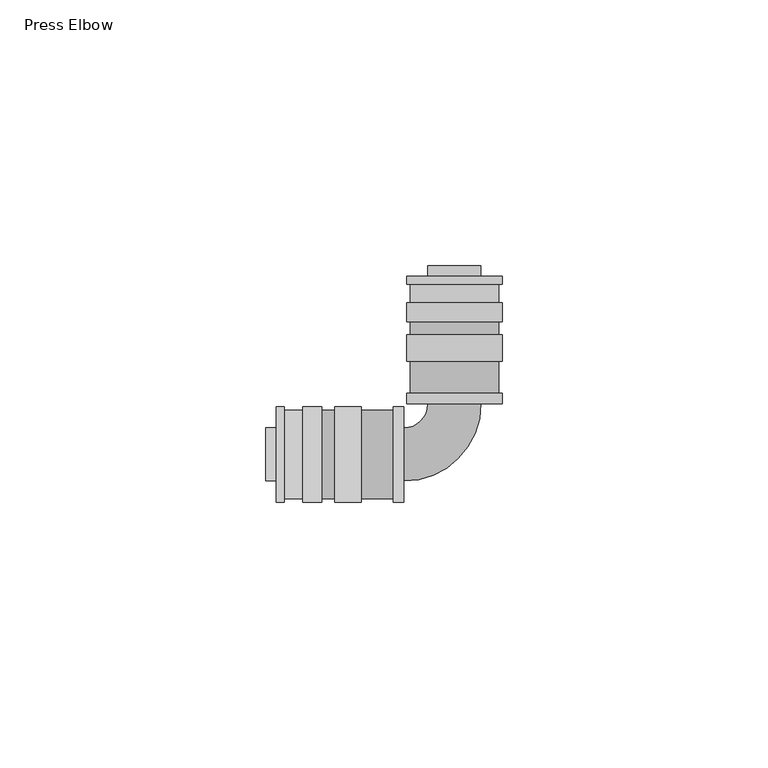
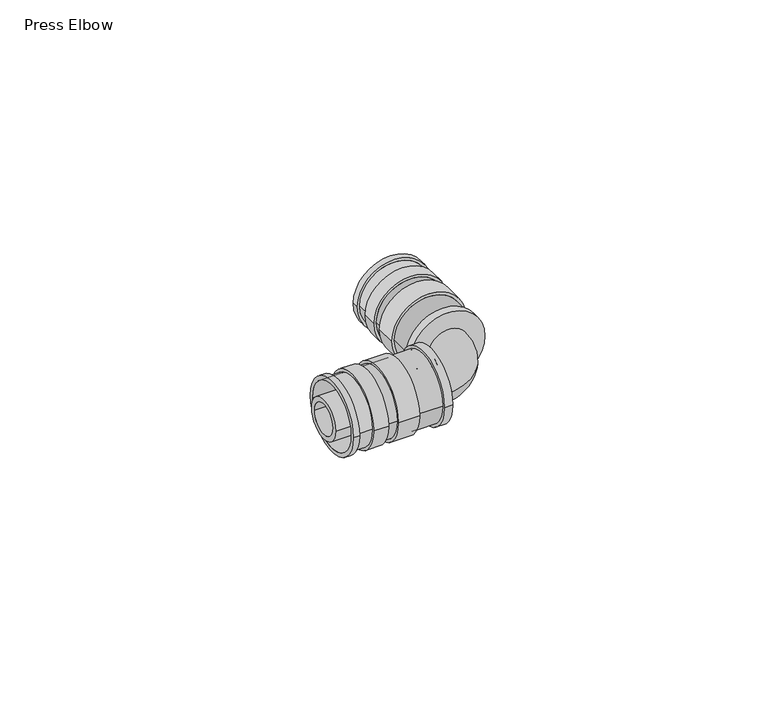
"""IFC4 building model written with IfcOpenShell, lengths in millimetres: pipe fitting geometry, Press Elbow : Superpipe Press Elbow."""

from ifc_helpers import new_model, si_unit, point, frame, origin, origin_2d, place, context, project, spatial, polyline, circle_curve, ellipse_curve, trimmed, segment, composite_curve, outline, extrude, source, transform, mapped, element, save
from ifc_brep_helpers import plane_surface, cylinder_surface, revolved_surface, advanced_brep


def press_elbow_fd1b3582(model_context):
    return source(origin(), model_context, "Body", "SolidModel", [
        advanced_brep(
        [(-8.3, 11.5, 0.0), (8.3, 11.5, 0.0), (8.0, 11.5, 0.0), (-8.0, 11.5, 0.0), (9.0, 33.5, 0.0), (-9.0, 33.5, 0.0), (8.0, 33.5, 0.0), (-8.0, 33.5, 0.0), (9.0, 32.0, 0.0), (-9.0, 32.0, 0.0), (9.0, 17.5, 0.0), (-9.0, 17.5, 0.0), (-9.0, 22.5, 0.0), (9.0, 22.5, 0.0), (9.0, 25.0, 0.0), (-9.0, 25.0, 0.0), (-9.0, 28.5, 0.0), (9.0, 28.5, 0.0), (8.3, 17.5, 0.0), (-8.3, 17.5, 0.0), (8.3, 22.5, 0.0), (-8.3, 22.5, 0.0), (8.3, 25.0, 0.0), (-8.3, 25.0, 0.0), (-8.3, 32.0, 0.0), (8.3, 32.0, 0.0), (-8.3, 28.5, 0.0), (8.3, 28.5, 0.0)],
        [
            (0, 1, circle_curve(frame((0.0, 11.5, 0.0), z_axis=(0.0, -1.0, 0.0), x_axis=(-1.0, 0.0, 0.0)), 8.3)),
            (1, 0, circle_curve(frame((0.0, 11.5, 0.0), z_axis=(0.0, -1.0, 0.0), x_axis=(-1.0, 0.0, 0.0)), 8.3)),
            (2, 3, circle_curve(frame((0.0, 11.5, 0.0), z_axis=(0.0, 1.0, 0.0), x_axis=(-1.0, 0.0, 0.0)), 8.0)),
            (3, 2, circle_curve(frame((0.0, 11.5, 0.0), z_axis=(0.0, 1.0, 0.0), x_axis=(-1.0, 0.0, 0.0)), 8.0)),
            (4, 5, circle_curve(frame((0.0, 33.5, 0.0), z_axis=(0.0, 1.0, 0.0), x_axis=(-1.0, 0.0, 0.0)), 9.0)),
            (5, 4, circle_curve(frame((0.0, 33.5, 0.0), z_axis=(0.0, 1.0, 0.0), x_axis=(-1.0, 0.0, 0.0)), 9.0)),
            (6, 7, circle_curve(frame((0.0, 33.5, 0.0), z_axis=(0.0, -1.0, 0.0), x_axis=(-1.0, 0.0, 0.0)), 8.0)),
            (7, 6, circle_curve(frame((0.0, 33.5, 0.0), z_axis=(0.0, -1.0, 0.0), x_axis=(-1.0, 0.0, 0.0)), 8.0)),
            (4, 8),
            (8, 9, circle_curve(frame((0.0, 32.0, 0.0), z_axis=(0.0, 1.0, 0.0), x_axis=(-1.0, 0.0, 0.0)), 9.0)),
            (9, 5),
            (10, 11, circle_curve(frame((0.0, 17.5, 0.0), z_axis=(0.0, 1.0, 0.0), x_axis=(-1.0, 0.0, 0.0)), 9.0)),
            (11, 12),
            (12, 13, circle_curve(frame((0.0, 22.5, 0.0), z_axis=(0.0, -1.0, 0.0), x_axis=(-1.0, 0.0, 0.0)), 9.0)),
            (13, 10),
            (14, 15, circle_curve(frame((0.0, 25.0, 0.0), z_axis=(0.0, 1.0, 0.0), x_axis=(-1.0, 0.0, 0.0)), 9.0)),
            (15, 16),
            (16, 17, circle_curve(frame((0.0, 28.5, 0.0), z_axis=(0.0, -1.0, 0.0), x_axis=(-1.0, 0.0, 0.0)), 9.0)),
            (17, 14),
            (9, 8, circle_curve(frame((0.0, 32.0, 0.0), z_axis=(0.0, 1.0, 0.0), x_axis=(-1.0, 0.0, 0.0)), 9.0)),
            (11, 10, circle_curve(frame((0.0, 17.5, 0.0), z_axis=(0.0, 1.0, 0.0), x_axis=(-1.0, 0.0, 0.0)), 9.0)),
            (13, 12, circle_curve(frame((0.0, 22.5, 0.0), z_axis=(0.0, -1.0, 0.0), x_axis=(-1.0, 0.0, 0.0)), 9.0)),
            (15, 14, circle_curve(frame((0.0, 25.0, 0.0), z_axis=(0.0, 1.0, 0.0), x_axis=(-1.0, 0.0, 0.0)), 9.0)),
            (17, 16, circle_curve(frame((0.0, 28.5, 0.0), z_axis=(0.0, -1.0, 0.0), x_axis=(-1.0, 0.0, 0.0)), 9.0)),
            (3, 7),
            (6, 2),
            (18, 19, circle_curve(frame((0.0, 17.5, 0.0), z_axis=(0.0, 1.0, 0.0), x_axis=(-1.0, 0.0, 0.0)), 8.3)),
            (19, 18, circle_curve(frame((0.0, 17.5, 0.0), z_axis=(0.0, 1.0, 0.0), x_axis=(-1.0, 0.0, 0.0)), 8.3)),
            (18, 1),
            (0, 19),
            (20, 21, circle_curve(frame((0.0, 22.5, 0.0), z_axis=(0.0, -1.0, 0.0), x_axis=(-1.0, 0.0, 0.0)), 8.3)),
            (21, 20, circle_curve(frame((0.0, 22.5, 0.0), z_axis=(0.0, -1.0, 0.0), x_axis=(-1.0, 0.0, 0.0)), 8.3)),
            (22, 23, circle_curve(frame((0.0, 25.0, 0.0), z_axis=(0.0, 1.0, 0.0), x_axis=(-1.0, 0.0, 0.0)), 8.3)),
            (23, 22, circle_curve(frame((0.0, 25.0, 0.0), z_axis=(0.0, 1.0, 0.0), x_axis=(-1.0, 0.0, 0.0)), 8.3)),
            (21, 23),
            (22, 20),
            (24, 25, circle_curve(frame((0.0, 32.0, 0.0), z_axis=(0.0, 1.0, 0.0), x_axis=(1.0, 0.0, 0.0)), 8.3)),
            (25, 24, circle_curve(frame((0.0, 32.0, 0.0), z_axis=(0.0, 1.0, 0.0), x_axis=(1.0, 0.0, 0.0)), 8.3)),
            (26, 27, circle_curve(frame((0.0, 28.5, 0.0), z_axis=(0.0, -1.0, 0.0), x_axis=(1.0, 0.0, 0.0)), 8.3)),
            (27, 26, circle_curve(frame((0.0, 28.5, 0.0), z_axis=(0.0, -1.0, 0.0), x_axis=(1.0, 0.0, 0.0)), 8.3)),
            (25, 27),
            (26, 24),
        ],
        [
            plane_surface(frame((0.0, 11.5, 0.0), z_axis=(0.0, -1.0, 0.0), x_axis=(0.0, 0.0, 1.0))),
            plane_surface(frame((0.0, 33.5, 0.0), z_axis=(0.0, 1.0, 0.0), x_axis=(0.0, 0.0, 1.0))),
            cylinder_surface(frame((0.0, 11.5, 0.0), z_axis=(0.0, -1.0, 0.0), x_axis=(-1.0, 0.0, 0.0)), 9.0),
            revolved_surface(polyline([(-8.0, 33.5, 0.0), (-8.0, 11.5, 0.0)]), (0.0, 11.5, 0.0), (0.0, 1.0, 0.0)),
            plane_surface(frame((0.0, 17.5, 0.0), z_axis=(0.0, -1.0, 0.0), x_axis=(0.0, 0.0, 1.0))),
            cylinder_surface(frame((0.0, 11.5, 0.0), z_axis=(0.0, 1.0, 0.0), x_axis=(-1.0, 0.0, 0.0)), 8.3),
            plane_surface(frame((0.0, 22.5, 0.0), z_axis=(0.0, 1.0, 0.0), x_axis=(0.0, 0.0, 1.0))),
            plane_surface(frame((0.0, 25.0, 0.0), z_axis=(0.0, -1.0, 0.0), x_axis=(0.0, 0.0, 1.0))),
            cylinder_surface(frame((0.0, 22.5, 0.0), z_axis=(0.0, 1.0, 0.0), x_axis=(-1.0, 0.0, 0.0)), 8.3),
            plane_surface(frame((0.0, 32.0, 0.0), z_axis=(0.0, -1.0, 0.0), x_axis=(0.0, 0.0, 1.0))),
            plane_surface(frame((0.0, 28.5, 0.0), z_axis=(0.0, 1.0, 0.0), x_axis=(0.0, 0.0, 1.0))),
            cylinder_surface(frame((0.0, 32.0, 0.0), z_axis=(0.0, -1.0, 0.0), x_axis=(1.0, 0.0, 0.0)), 8.3),
        ],
        [
            (0, [[1, 2], [3, 4]]),
            (1, [[5, 6], [7, 8]]),
            (2, [[-5, 9, 10, 11]]),
            (2, [[12, 13, 14, 15]]),
            (2, [[16, 17, 18, 19]]),
            (2, [[-6, -11, 20, -9]]),
            (2, [[21, -15, 22, -13]]),
            (2, [[23, -19, 24, -17]]),
            (3, [[-4, 25, -7, 26]]),
            (3, [[-3, -26, -8, -25]]),
            (4, [[-12, -21], [27, 28]]),
            (5, [[-27, 29, -1, 30]]),
            (5, [[-28, -30, -2, -29]]),
            (6, [[-14, -22], [31, 32]]),
            (7, [[-16, -23], [33, 34]]),
            (8, [[-32, 35, -33, 36]]),
            (8, [[-31, -36, -34, -35]]),
            (9, [[-10, -20], [37, 38]]),
            (10, [[-18, -24], [39, 40]]),
            (11, [[-38, 41, -39, 42]]),
            (11, [[-37, -42, -40, -41]]),
        ],
    ),
        advanced_brep(
        [(-11.5, -8.3, 0.0), (-11.5, 8.3, 0.0), (-11.5, 8.0, 0.0), (-11.5, -8.0, 0.0), (-33.5, 9.0, 0.0), (-33.5, -9.0, 0.0), (-33.5, 8.0, 0.0), (-33.5, -8.0, 0.0), (-32.0, 9.0, 0.0), (-32.0, -9.0, 0.0), (-22.5, -9.0, 0.0), (-22.5, 9.0, 0.0), (-17.5, 9.0, 0.0), (-17.5, -9.0, 0.0), (-25.0, 9.0, 0.0), (-25.0, -9.0, 0.0), (-28.5, -9.0, 0.0), (-28.5, 9.0, 0.0), (-22.5, 8.3, 0.0), (-22.5, -8.3, 0.0), (-25.0, 8.3, 0.0), (-25.0, -8.3, 0.0), (-32.0, -8.3, 0.0), (-32.0, 8.3, 0.0), (-28.5, -8.3, 0.0), (-28.5, 8.3, 0.0), (-17.5, 8.3, 0.0), (-17.5, -8.3, 0.0)],
        [
            (0, 1, circle_curve(frame((-11.5, 0.0, 0.0), z_axis=(1.0, 0.0, 0.0), x_axis=(0.0, -1.0, 0.0)), 8.3)),
            (1, 0, circle_curve(frame((-11.5, 0.0, 0.0), z_axis=(1.0, 0.0, 0.0), x_axis=(0.0, -1.0, 0.0)), 8.3)),
            (2, 3, circle_curve(frame((-11.5, 0.0, 0.0), z_axis=(-1.0, 0.0, 0.0), x_axis=(0.0, -1.0, 0.0)), 8.0)),
            (3, 2, circle_curve(frame((-11.5, 0.0, 0.0), z_axis=(-1.0, 0.0, 0.0), x_axis=(0.0, -1.0, 0.0)), 8.0)),
            (4, 5, circle_curve(frame((-33.5, 0.0, 0.0), z_axis=(-1.0, 0.0, 0.0), x_axis=(0.0, -1.0, 0.0)), 9.0)),
            (5, 4, circle_curve(frame((-33.5, 0.0, 0.0), z_axis=(-1.0, 0.0, 0.0), x_axis=(0.0, -1.0, 0.0)), 9.0)),
            (6, 7, circle_curve(frame((-33.5, 0.0, 0.0), z_axis=(1.0, 0.0, 0.0), x_axis=(0.0, -1.0, 0.0)), 8.0)),
            (7, 6, circle_curve(frame((-33.5, 0.0, 0.0), z_axis=(1.0, 0.0, 0.0), x_axis=(0.0, -1.0, 0.0)), 8.0)),
            (3, 7),
            (6, 2),
            (4, 8),
            (8, 9, circle_curve(frame((-32.0, 0.0, 0.0), z_axis=(-1.0, 0.0, 0.0), x_axis=(0.0, -1.0, 0.0)), 9.0)),
            (9, 5),
            (10, 11, circle_curve(frame((-22.5, 0.0, 0.0), z_axis=(1.0, 0.0, 0.0), x_axis=(0.0, -1.0, 0.0)), 9.0)),
            (11, 12),
            (12, 13, circle_curve(frame((-17.5, 0.0, 0.0), z_axis=(-1.0, 0.0, 0.0), x_axis=(0.0, -1.0, 0.0)), 9.0)),
            (13, 10),
            (14, 15, circle_curve(frame((-25.0, 0.0, 0.0), z_axis=(-1.0, 0.0, 0.0), x_axis=(0.0, -1.0, 0.0)), 9.0)),
            (15, 16),
            (16, 17, circle_curve(frame((-28.5, 0.0, 0.0), z_axis=(1.0, 0.0, 0.0), x_axis=(0.0, -1.0, 0.0)), 9.0)),
            (17, 14),
            (9, 8, circle_curve(frame((-32.0, 0.0, 0.0), z_axis=(-1.0, 0.0, 0.0), x_axis=(0.0, -1.0, 0.0)), 9.0)),
            (11, 10, circle_curve(frame((-22.5, 0.0, 0.0), z_axis=(1.0, 0.0, 0.0), x_axis=(0.0, -1.0, 0.0)), 9.0)),
            (13, 12, circle_curve(frame((-17.5, 0.0, 0.0), z_axis=(-1.0, 0.0, 0.0), x_axis=(0.0, -1.0, 0.0)), 9.0)),
            (15, 14, circle_curve(frame((-25.0, 0.0, 0.0), z_axis=(-1.0, 0.0, 0.0), x_axis=(0.0, -1.0, 0.0)), 9.0)),
            (17, 16, circle_curve(frame((-28.5, 0.0, 0.0), z_axis=(1.0, 0.0, 0.0), x_axis=(0.0, -1.0, 0.0)), 9.0)),
            (18, 19, circle_curve(frame((-22.5, 0.0, 0.0), z_axis=(1.0, 0.0, 0.0), x_axis=(0.0, -1.0, 0.0)), 8.3)),
            (19, 18, circle_curve(frame((-22.5, 0.0, 0.0), z_axis=(1.0, 0.0, 0.0), x_axis=(0.0, -1.0, 0.0)), 8.3)),
            (20, 21, circle_curve(frame((-25.0, 0.0, 0.0), z_axis=(-1.0, 0.0, 0.0), x_axis=(0.0, -1.0, 0.0)), 8.3)),
            (21, 20, circle_curve(frame((-25.0, 0.0, 0.0), z_axis=(-1.0, 0.0, 0.0), x_axis=(0.0, -1.0, 0.0)), 8.3)),
            (19, 21),
            (20, 18),
            (22, 23, circle_curve(frame((-32.0, 0.0, 0.0), z_axis=(-1.0, 0.0, 0.0), x_axis=(0.0, 1.0, 0.0)), 8.3)),
            (23, 22, circle_curve(frame((-32.0, 0.0, 0.0), z_axis=(-1.0, 0.0, 0.0), x_axis=(0.0, 1.0, 0.0)), 8.3)),
            (24, 25, circle_curve(frame((-28.5, 0.0, 0.0), z_axis=(1.0, 0.0, 0.0), x_axis=(0.0, 1.0, 0.0)), 8.3)),
            (25, 24, circle_curve(frame((-28.5, 0.0, 0.0), z_axis=(1.0, 0.0, 0.0), x_axis=(0.0, 1.0, 0.0)), 8.3)),
            (23, 25),
            (24, 22),
            (26, 27, circle_curve(frame((-17.5, 0.0, 0.0), z_axis=(-1.0, 0.0, 0.0), x_axis=(0.0, -1.0, 0.0)), 8.3)),
            (27, 26, circle_curve(frame((-17.5, 0.0, 0.0), z_axis=(-1.0, 0.0, 0.0), x_axis=(0.0, -1.0, 0.0)), 8.3)),
            (26, 1),
            (0, 27),
        ],
        [
            plane_surface(frame((-11.5, 0.0, 0.0), z_axis=(1.0, 0.0, 0.0), x_axis=(0.0, 0.0, 1.0))),
            plane_surface(frame((-33.5, 0.0, 0.0), z_axis=(-1.0, 0.0, 0.0), x_axis=(0.0, 0.0, 1.0))),
            revolved_surface(polyline([(-33.5, -8.0, 0.0), (-11.5, -8.0, 0.0)]), (-11.5, 0.0, 0.0), (-1.0, 0.0, 0.0)),
            cylinder_surface(frame((-11.5, 0.0, 0.0), z_axis=(1.0, 0.0, 0.0), x_axis=(0.0, -1.0, 0.0)), 9.0),
            plane_surface(frame((-22.5, 0.0, 0.0), z_axis=(-1.0, 0.0, 0.0), x_axis=(0.0, 0.0, 1.0))),
            plane_surface(frame((-25.0, 0.0, 0.0), z_axis=(1.0, 0.0, 0.0), x_axis=(0.0, 0.0, 1.0))),
            cylinder_surface(frame((-22.5, 0.0, 0.0), z_axis=(-1.0, 0.0, 0.0), x_axis=(0.0, -1.0, 0.0)), 8.3),
            plane_surface(frame((-32.0, 0.0, 0.0), z_axis=(1.0, 0.0, 0.0), x_axis=(0.0, 0.0, 1.0))),
            plane_surface(frame((-28.5, 0.0, 0.0), z_axis=(-1.0, 0.0, 0.0), x_axis=(0.0, 0.0, 1.0))),
            cylinder_surface(frame((-32.0, 0.0, 0.0), z_axis=(1.0, 0.0, 0.0), x_axis=(0.0, 1.0, 0.0)), 8.3),
            plane_surface(frame((-17.5, 0.0, 0.0), z_axis=(1.0, 0.0, 0.0), x_axis=(0.0, 0.0, 1.0))),
            cylinder_surface(frame((-11.5, 0.0, 0.0), z_axis=(-1.0, 0.0, 0.0), x_axis=(0.0, -1.0, 0.0)), 8.3),
        ],
        [
            (0, [[1, 2], [3, 4]]),
            (1, [[5, 6], [7, 8]]),
            (2, [[-4, 9, -7, 10]]),
            (2, [[-3, -10, -8, -9]]),
            (3, [[-5, 11, 12, 13]]),
            (3, [[14, 15, 16, 17]]),
            (3, [[18, 19, 20, 21]]),
            (3, [[-6, -13, 22, -11]]),
            (3, [[23, -17, 24, -15]]),
            (3, [[25, -21, 26, -19]]),
            (4, [[-14, -23], [27, 28]]),
            (5, [[-18, -25], [29, 30]]),
            (6, [[-28, 31, -29, 32]]),
            (6, [[-27, -32, -30, -31]]),
            (7, [[-12, -22], [33, 34]]),
            (8, [[-20, -26], [35, 36]]),
            (9, [[-34, 37, -35, 38]]),
            (9, [[-33, -38, -36, -37]]),
            (10, [[-16, -24], [39, 40]]),
            (11, [[-39, 41, -1, 42]]),
            (11, [[-40, -42, -2, -41]]),
        ],
    ),
        extrude(outline(composite_curve([segment(trimmed(circle_curve(origin_2d(), 5.0), [point((0.0, 5.0))], [point((0.0, -5.0))], False, "CARTESIAN"), True, "CONTINUOUS"), segment(trimmed(circle_curve(origin_2d(), 5.0), [point((0.0, -5.0))], [point((0.0, 5.0))], False, "CARTESIAN"), True, "CONTINUOUS")], self_intersect=False), holes=[composite_curve([segment(trimmed(circle_curve(origin_2d(), 3.8), [point((0.0, 3.8))], [point((0.0, -3.8))], True, "CARTESIAN"), True, "CONTINUOUS"), segment(trimmed(circle_curve(origin_2d(), 3.8), [point((0.0, -3.8))], [point((0.0, 3.8))], True, "CARTESIAN"), True, "CONTINUOUS")], self_intersect=False)]), frame((0.0, 11.5, 0.0), z_axis=(0.0, 1.0, 0.0), x_axis=(0.0, 0.0, 1.0)), (0.0, 0.0, 1.0), 24.0),
        extrude(outline(composite_curve([segment(trimmed(circle_curve(origin_2d(), 9.0), [point((0.0, 9.0))], [point((0.0, -9.0))], False, "CARTESIAN"), True, "CONTINUOUS"), segment(trimmed(circle_curve(origin_2d(), 9.0), [point((0.0, -9.0))], [point((0.0, 9.0))], False, "CARTESIAN"), True, "CONTINUOUS")], self_intersect=False), holes=[composite_curve([segment(trimmed(circle_curve(origin_2d(), 3.8), [point((0.0, 3.8))], [point((0.0, -3.8))], True, "CARTESIAN"), True, "CONTINUOUS"), segment(trimmed(circle_curve(origin_2d(), 3.8), [point((0.0, -3.8))], [point((0.0, 3.8))], True, "CARTESIAN"), True, "CONTINUOUS")], self_intersect=False)]), frame((0.0, 9.5, 0.0), z_axis=(0.0, 1.0, 0.0), x_axis=(0.0, 0.0, 1.0)), (0.0, 0.0, 1.0), 2.0),
        extrude(outline(composite_curve([segment(trimmed(circle_curve(origin_2d(), 9.0), [point((9.0, 0.0))], [point((-9.0, 0.0))], False, "CARTESIAN"), True, "CONTINUOUS"), segment(trimmed(circle_curve(origin_2d(), 9.0), [point((-9.0, 0.0))], [point((9.0, 0.0))], False, "CARTESIAN"), True, "CONTINUOUS")], self_intersect=False), holes=[composite_curve([segment(trimmed(circle_curve(origin_2d(), 3.8), [point((3.8, 0.0))], [point((-3.8, 0.0))], True, "CARTESIAN"), True, "CONTINUOUS"), segment(trimmed(circle_curve(origin_2d(), 3.8), [point((-3.8, 0.0))], [point((3.8, 0.0))], True, "CARTESIAN"), True, "CONTINUOUS")], self_intersect=False)]), frame((-11.5, 0.0, 0.0), z_axis=(1.0, 0.0, 0.0), x_axis=(0.0, 1.0, 0.0)), (0.0, 0.0, 1.0), 2.0),
        extrude(outline(composite_curve([segment(trimmed(circle_curve(origin_2d(), 5.0), [point((5.0, 0.0))], [point((-5.0, 0.0))], False, "CARTESIAN"), True, "CONTINUOUS"), segment(trimmed(circle_curve(origin_2d(), 5.0), [point((-5.0, 0.0))], [point((5.0, 0.0))], False, "CARTESIAN"), True, "CONTINUOUS")], self_intersect=False), holes=[composite_curve([segment(trimmed(circle_curve(origin_2d(), 3.8), [point((3.8, 0.0))], [point((-3.8, 0.0))], True, "CARTESIAN"), True, "CONTINUOUS"), segment(trimmed(circle_curve(origin_2d(), 3.8), [point((-3.8, 0.0))], [point((3.8, 0.0))], True, "CARTESIAN"), True, "CONTINUOUS")], self_intersect=False)]), frame((-35.5, 0.0, 0.0), z_axis=(1.0, 0.0, 0.0), x_axis=(0.0, 1.0, 0.0)), (0.0, 0.0, 1.0), 24.0),
        advanced_brep(
        [(-9.5, -3.8, 0.0), (-9.5, 3.8, 0.0), (3.8, 9.5, 0.0), (-3.8, 9.5, 0.0)],
        [
            (0, 1, circle_curve(frame((-9.5, 0.0, 0.0), z_axis=(-1.0, 0.0, 0.0), x_axis=(0.0, 1.0, 0.0)), 3.8)),
            (1, 0, circle_curve(frame((-9.5, 0.0, 0.0), z_axis=(-1.0, 0.0, 0.0), x_axis=(0.0, 1.0, 0.0)), 3.8)),
            (2, 3, circle_curve(frame((0.0, 9.5, 0.0), z_axis=(0.0, 1.0, 0.0), x_axis=(-1.0, 0.0, 0.0)), 3.8)),
            (3, 2, circle_curve(frame((0.0, 9.5, 0.0), z_axis=(0.0, 1.0, 0.0), x_axis=(-1.0, 0.0, 0.0)), 3.8)),
            (3, 1, circle_curve(frame((-9.5, 9.5, 0.0), z_axis=(0.0, 0.0, -1.0), x_axis=(0.0, -1.0, 0.0)), 5.7)),
            (0, 2, circle_curve(frame((-9.5, 9.5, 0.0), z_axis=(0.0, 0.0, 1.0), x_axis=(0.0, -1.0, 0.0)), 13.3)),
        ],
        [
            plane_surface(frame((-9.5, 0.0, 0.0), z_axis=(-1.0, 0.0, 0.0), x_axis=(0.0, 0.0, 1.0))),
            plane_surface(frame((0.0, 9.5, 0.0), z_axis=(0.0, 1.0, 0.0), x_axis=(0.0, 0.0, 1.0))),
            revolved_surface(trimmed(ellipse_curve(frame((-9.5, 0.0, 0.0), z_axis=(-1.0, 0.0, 0.0), x_axis=(0.0, 1.0, 0.0)), 3.8, 3.8), [point((-9.5, -3.8, 0.0))], [point((-9.5, 3.8, 0.0))], True, "CARTESIAN"), (-9.5, 9.5, 0.0), (0.0, 0.0, 1.0)),
            revolved_surface(trimmed(ellipse_curve(frame((-9.5, 0.0, 0.0), z_axis=(-1.0, 0.0, 0.0), x_axis=(0.0, 1.0, 0.0)), 3.8, 3.8), [point((-9.5, 3.8, 0.0))], [point((-9.5, -3.8, 0.0))], True, "CARTESIAN"), (-9.5, 9.5, 0.0), (0.0, 0.0, 1.0)),
        ],
        [
            (0, [[1, 2]]),
            (1, [[3, 4]]),
            (2, [[5, -1, 6, -4]]),
            (3, [[-6, -2, -5, -3]]),
        ],
    ),
        advanced_brep(
        [(-9.5, -5.0, 0.0), (-9.5, 5.0, 0.0), (5.0, 9.5, 0.0), (-5.0, 9.5, 0.0)],
        [
            (0, 1, circle_curve(frame((-9.5, 0.0, 0.0), z_axis=(-1.0, 0.0, 0.0), x_axis=(0.0, 1.0, 0.0)), 5.0)),
            (1, 0, circle_curve(frame((-9.5, 0.0, 0.0), z_axis=(-1.0, 0.0, 0.0), x_axis=(0.0, 1.0, 0.0)), 5.0)),
            (2, 3, circle_curve(frame((0.0, 9.5, 0.0), z_axis=(0.0, 1.0, 0.0), x_axis=(-1.0, 0.0, 0.0)), 5.0)),
            (3, 2, circle_curve(frame((0.0, 9.5, 0.0), z_axis=(0.0, 1.0, 0.0), x_axis=(-1.0, 0.0, 0.0)), 5.0)),
            (3, 1, circle_curve(frame((-9.5, 9.5, 0.0), z_axis=(0.0, 0.0, -1.0), x_axis=(0.0, -1.0, 0.0)), 4.5)),
            (0, 2, circle_curve(frame((-9.5, 9.5, 0.0), z_axis=(0.0, 0.0, 1.0), x_axis=(0.0, -1.0, 0.0)), 14.5)),
        ],
        [
            plane_surface(frame((-9.5, 0.0, 0.0), z_axis=(-1.0, 0.0, 0.0), x_axis=(0.0, 0.0, 1.0))),
            plane_surface(frame((0.0, 9.5, 0.0), z_axis=(0.0, 1.0, 0.0), x_axis=(0.0, 0.0, 1.0))),
            revolved_surface(trimmed(ellipse_curve(frame((-9.5, 0.0, 0.0), z_axis=(-1.0, 0.0, 0.0), x_axis=(0.0, 1.0, 0.0)), 5.0, 5.0), [point((-9.5, -5.0, 0.0))], [point((-9.5, 5.0, 0.0))], True, "CARTESIAN"), (-9.5, 9.5, 0.0), (0.0, 0.0, 1.0)),
            revolved_surface(trimmed(ellipse_curve(frame((-9.5, 0.0, 0.0), z_axis=(-1.0, 0.0, 0.0), x_axis=(0.0, 1.0, 0.0)), 5.0, 5.0), [point((-9.5, 5.0, 0.0))], [point((-9.5, -5.0, 0.0))], True, "CARTESIAN"), (-9.5, 9.5, 0.0), (0.0, 0.0, 1.0)),
        ],
        [
            (0, [[1, 2]]),
            (1, [[3, 4]]),
            (2, [[5, -1, 6, -4]]),
            (3, [[-6, -2, -5, -3]]),
        ],
    ),
    ])


if __name__ == "__main__":
    model = new_model("IFC4")
    model_context = context("Model", 3, world=origin())
    ifc_project = project(units=[si_unit("LENGTHUNIT", "METRE", prefix="MILLI")], contexts=[model_context])
    site = spatial("IfcSite", under=ifc_project)
    building = spatial("IfcBuilding", under=site)
    placement = place(None, origin())
    press_elbow_shape = press_elbow_fd1b3582(model_context)
    element("IfcPipeFitting", 1, ObjectType="Press Elbow : Superpipe Press Elbow", at=placement, inside=building, context=model_context, shape_type="MappedRepresentation", body=[
        mapped(press_elbow_shape, transform((0.0, 0.0, 0.0), x_axis=(1.0, 0.0, 0.0), y_axis=(0.0, 1.0, 0.0), z_axis=(0.0, 0.0, 1.0))),
    ])
    save(model, "model.ifc")
